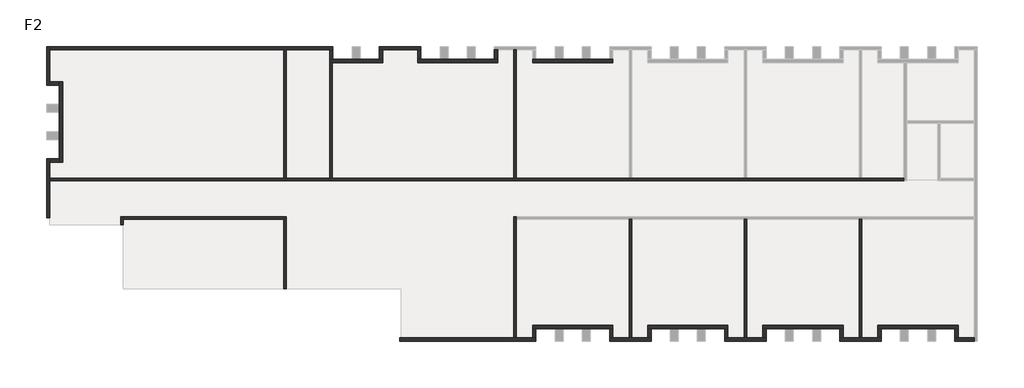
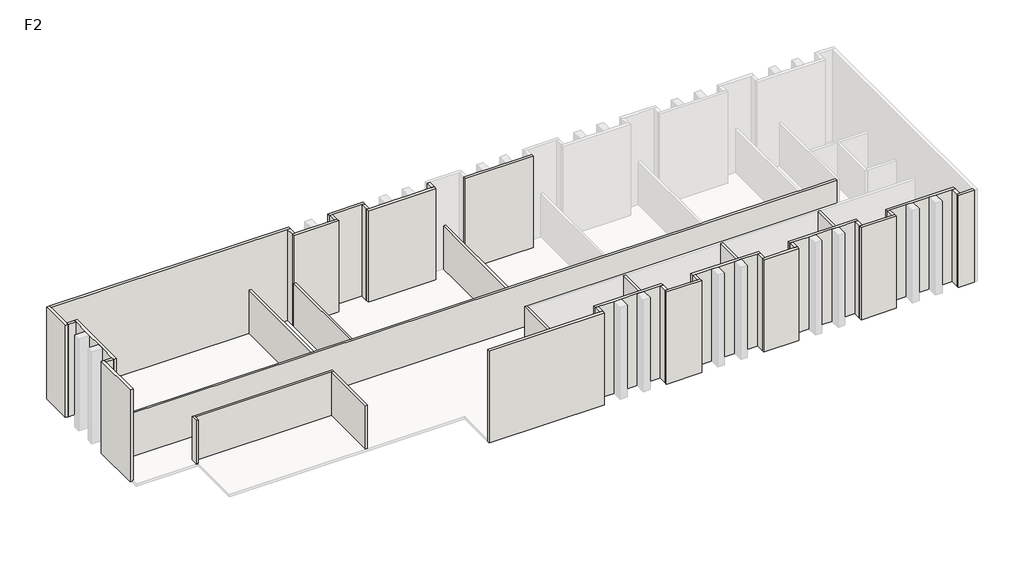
# One storey, part 1 of 2: 42 walls.
"""IFC4 building model written with IfcOpenShell, lengths in millimetres."""

import ifcopenshell
import ifcopenshell.guid

model = None  # the IFC model being written
_history = None  # IfcOwnerHistory: only IFC2X3 demands one
_inside = {}  # id of a spatial element -> (the spatial element, [elements in it])
_under = {}  # id of a project, library or spatial element -> (it, [spatial elements below it])
_declared = {}  # id of a project -> (the project, [libraries it declares])
_typed = {}  # id of a type object -> (the type object, [elements of that type])
_made_of = {}  # id of a material, layer set ... -> (it, [elements and type objects made of it])


def new_model(schema):
    """Start an empty IFC model of exactly this schema.

    Asked for "IFC4X3", IfcOpenShell would pick the latest addendum, in which some entities
    have other attributes; the version numbers below select the first issue.
    IFC2X3 requires an IfcOwnerHistory on every rooted entity: one is made here for all.
    """
    global model, _history
    if schema == "IFC4X3":
        model = ifcopenshell.file(schema_version=(4, 3, 0, 0))
    else:
        model = ifcopenshell.file(schema=schema)
    _inside.clear()
    _under.clear()
    _declared.clear()
    _typed.clear()
    _made_of.clear()
    _history = None
    if model.schema == "IFC2X3":
        org = make("IfcOrganization", Name="unknown")
        user = make(
            "IfcPersonAndOrganization",
            ThePerson=make("IfcPerson", FamilyName="unknown"),
            TheOrganization=org,
        )
        app = make(
            "IfcApplication",
            ApplicationDeveloper=org,
            Version="unknown",
            ApplicationFullName="unknown",
            ApplicationIdentifier="unknown",
        )
        _history = make(
            "IfcOwnerHistory",
            OwningUser=user,
            OwningApplication=app,
            ChangeAction="ADDED",
            CreationDate=0,
        )
    return model


def make(cls, **values):
    """One entity of the class cls with the attributes given. An attribute that is None is left unset."""
    return model.create_entity(
        cls, **{name: value for name, value in values.items() if value is not None}
    )


def rooted(cls, **values):
    """An entity with a GlobalId (a new one), such as an element, a storey or a relation."""
    return make(cls, GlobalId=ifcopenshell.guid.new(), OwnerHistory=_history, **values)


def si_unit(unit_type, name, prefix=None):
    """IfcSIUnit, for example si_unit("LENGTHUNIT", "METRE", prefix="MILLI")."""
    return make("IfcSIUnit", UnitType=unit_type, Prefix=prefix, Name=name)


def assignment(units):
    """IfcUnitAssignment: the units of a project."""
    return None if units is None else make("IfcUnitAssignment", Units=units)


def point(xyz):
    """IfcCartesianPoint."""
    return None if xyz is None else make("IfcCartesianPoint", Coordinates=xyz)


def direction(xyz):
    """IfcDirection."""
    return None if xyz is None else make("IfcDirection", DirectionRatios=xyz)


def frame(location, z_axis=None, x_axis=None):
    """IfcAxis2Placement3D, a coordinate frame: its origin and axes. An axis left out is left unset."""
    return make(
        "IfcAxis2Placement3D",
        Location=point(location),
        Axis=direction(z_axis),
        RefDirection=direction(x_axis),
    )


def origin():
    """The frame at (0, 0, 0) with its axes left unset."""
    return frame((0.0, 0.0, 0.0))


def place(relative_to, where):
    """IfcLocalPlacement: puts the frame where relative to a parent placement (None: the world)."""
    return make(
        "IfcLocalPlacement", PlacementRelTo=relative_to, RelativePlacement=where
    )


def context(
    kind, dimensions, precision=None, world=None, true_north=None, identifier=None
):
    """IfcGeometricRepresentationContext, for example the 3D "Model" context."""
    return make(
        "IfcGeometricRepresentationContext",
        ContextIdentifier=identifier,
        ContextType=kind,
        CoordinateSpaceDimension=dimensions,
        Precision=precision,
        WorldCoordinateSystem=world,
        TrueNorth=true_north,
    )


def project(units=None, contexts=None):
    """IfcProject with its units and contexts."""
    return rooted(
        "IfcProject",
        Name="project",
        RepresentationContexts=contexts,
        UnitsInContext=assignment(units),
    )


def spatial(cls, under=None, at=None, **own):
    """A site, building, storey or space (cls), placed at a placement, below another one or the project."""
    s = rooted(cls, ObjectPlacement=at, **own)
    if under is not None:
        _under.setdefault(under.id(), (under, []))[1].append(s)
    return s


def polyline(points):
    """IfcPolyline through the points."""
    return make("IfcPolyline", Points=[point(p) for p in points])


def outline(outer, holes=None, kind="AREA"):
    """IfcArbitraryClosedProfileDef: a profile drawn as a closed curve; with holes, ...WithVoids."""
    if holes is None:
        return make("IfcArbitraryClosedProfileDef", ProfileType=kind, OuterCurve=outer)
    return make(
        "IfcArbitraryProfileDefWithVoids",
        ProfileType=kind,
        OuterCurve=outer,
        InnerCurves=holes,
    )


def extrude(swept, where, along, depth):
    """IfcExtrudedAreaSolid: the profile swept, set in the frame where, extruded along a direction by depth."""
    return make(
        "IfcExtrudedAreaSolid",
        SweptArea=swept,
        Position=where,
        ExtrudedDirection=direction(along),
        Depth=depth,
    )


def faces_of(points, faces, orient=None, outer=None):
    """IfcFace entities. A face is a list of loops; a loop is a list of indices into points, from 0.

    orient and outer hold one flag for each loop. By default every Orientation is true, the
    first loop of a face is its IfcFaceOuterBound and the others are IfcFaceBound.
    """
    made = []
    for i, loops in enumerate(faces):
        bounds = []
        for j, loop in enumerate(loops):
            is_outer = j == 0 if outer is None else outer[i][j]
            bounds.append(
                make(
                    "IfcFaceOuterBound" if is_outer else "IfcFaceBound",
                    Bound=make("IfcPolyLoop", Polygon=[points[k] for k in loop]),
                    Orientation=True if orient is None else orient[i][j],
                )
            )
        made.append(make("IfcFace", Bounds=bounds))
    return made


def faceted_brep(points, faces, orient=None, outer=None, voids=None):
    """IfcFacetedBrep: a solid bounded by flat faces; with voids (closed shells), ...WithVoids."""
    shared = [point(p) for p in points]
    hull = make("IfcClosedShell", CfsFaces=faces_of(shared, faces, orient, outer))
    if voids is None:
        return make("IfcFacetedBrep", Outer=hull)
    return make(
        "IfcFacetedBrepWithVoids",
        Outer=hull,
        Voids=[
            make(cls, CfsFaces=faces_of(shared, fs, o, b)) for cls, fs, o, b in voids
        ],
    )


def shape(context_of_items, identifier, shape_type, items):
    """IfcShapeRepresentation: the items that make up one representation, for example the "Body"."""
    return make(
        "IfcShapeRepresentation",
        ContextOfItems=context_of_items,
        RepresentationIdentifier=identifier,
        RepresentationType=shape_type,
        Items=items,
    )


def made_of(thing, what):
    """Note that an element or type object is made of a material, layer set ...; save() writes the relation."""
    if what is not None:
        _made_of.setdefault(what.id(), (what, []))[1].append(thing)
    return thing


def element(
    cls,
    number,
    at=None,
    inside=None,
    cuts=None,
    type_object=None,
    material=None,
    context=None,
    identifier="Body",
    shape_type=None,
    held_by="IfcProductDefinitionShape",
    body=None,
    shapes=None,
    **own,
):
    """One element of the class cls, such as IfcWall. Its Tag is "e" and its number.

    at: its placement. inside: the storey or other place that contains it. cuts: it is an
    opening in that element (IfcRelVoidsElement). A single representation is given by context,
    identifier, shape_type and body (its items); several are given by shapes. held_by: the class
    of the entity that holds the representations. save() writes the other relations.
    """
    e = rooted(cls, Tag="e%d" % number, ObjectPlacement=at, **own)
    if body is not None:
        shapes = [shape(context, identifier, shape_type, body)]
    if shapes is not None:
        e.Representation = make(held_by, Representations=shapes)
    if inside is not None:
        _inside.setdefault(inside.id(), (inside, []))[1].append(e)
    if cuts is not None:
        rooted(
            "IfcRelVoidsElement", RelatingBuildingElement=cuts, RelatedOpeningElement=e
        )
    if type_object is not None:
        _typed.setdefault(type_object.id(), (type_object, []))[1].append(e)
    return made_of(e, material)


def aggregate(whole, parts):
    """IfcRelAggregates: a whole, such as a stair, and the parts it consists of."""
    return rooted("IfcRelAggregates", RelatingObject=whole, RelatedObjects=parts)


def save(model, path):
    """Write the relations noted so far, then the file.

    IfcRelAggregates (storeys below a building ...), IfcRelContainedInSpatialStructure (elements
    in a storey), IfcRelDefinesByType, IfcRelAssociatesMaterial and IfcRelDeclares: one each for
    every whole, place, type object, material and project.
    """
    for whole, parts in _under.values():
        aggregate(whole, parts)
    for where, things in _inside.values():
        rooted(
            "IfcRelContainedInSpatialStructure",
            RelatedElements=things,
            RelatingStructure=where,
        )
    for kind, things in _typed.values():
        rooted("IfcRelDefinesByType", RelatedObjects=things, RelatingType=kind)
    for what, things in _made_of.values():
        rooted("IfcRelAssociatesMaterial", RelatedObjects=things, RelatingMaterial=what)
    for by, libraries in _declared.values():
        rooted("IfcRelDeclares", RelatingContext=by, RelatedDefinitions=libraries)
    model.write(path)


model = new_model("IFC4")

# Units and contexts
model_context = context("Model", 3, world=origin())
ifc_project = project(units=[si_unit("LENGTHUNIT", "METRE", prefix="MILLI")], contexts=[model_context])

# Site, building, storey
site = spatial("IfcSite", under=ifc_project)
building = spatial("IfcBuilding", under=site)
storey = spatial("IfcBuildingStorey", under=building, Name="F2", Elevation=3600.0)

# Walls
placement = place(None, origin())
element("IfcWall", 1, ObjectType="F2-F5-15cm-外牆", at=placement, inside=storey, context=model_context, shape_type="Brep", body=[
    faceted_brep([(-27020.2182017, -13881.7926211, 3600.0), (-27020.2182017, -11561.7926211, 3600.0), (-27020.2182017, -11401.7926211, 3600.0), (-27020.2182017, -10391.7926211, 3600.0), (-27020.2182017, -10181.7926211, 3600.0), (-27020.2182017, -10181.7926211, 10800.0), (-27020.2182017, -10391.7926211, 10800.0), (-27020.2182017, -13881.7926211, 10800.0), (-27230.2182017, -13881.7926211, 3600.0), (-27230.2182017, -13881.7926211, 10800.0), (-27230.2182017, -10181.7926211, 10800.0), (-27230.2182017, -10181.7926211, 3600.0)], [[[0, 1, 2, 3, 4, 5, 6, 7]], [[8, 9, 10, 11]], [[4, 3, 2, 1, 0, 8, 11]], [[7, 6, 5, 10, 9]], [[0, 7, 9, 8]], [[5, 4, 11, 10]]]),
])
element("IfcWall", 2, ObjectType="F2-F5-15cm-外牆", at=placement, inside=storey, context=model_context, shape_type="Brep", body=[
    faceted_brep([(-27020.2182017, -3376.7926211, 3600.0), (-12385.2182017, -3376.7926211, 3600.0), (-12225.2182017, -3376.7926211, 3600.0), (-9525.2182017, -3376.7926211, 3600.0), (-9315.2182017, -3376.7926211, 3600.0), (-9315.2182017, -3376.7926211, 10800.0), (-9525.2182017, -3376.7926211, 10800.0), (-27020.2182017, -3376.7926211, 10800.0), (-27020.2182017, -3166.7926211, 3600.0), (-27020.2182017, -3166.7926211, 10800.0), (-9315.2182017, -3166.7926211, 10800.0), (-9315.2182017, -3166.7926211, 3600.0)], [[[0, 1, 2, 3, 4, 5, 6, 7]], [[8, 9, 10, 11]], [[4, 3, 2, 1, 0, 8, 11]], [[7, 6, 5, 10, 9]], [[5, 4, 11, 10]], [[0, 7, 9, 8]]]),
])
element("IfcWall", 3, ObjectType="F2-F5-15cm-外牆", at=placement, inside=storey, context=model_context, shape_type="Brep", body=[
    faceted_brep([(30789.7817983, -21386.7926211, 3600.0), (29794.7817983, -21386.7926211, 3600.0), (29584.7817983, -21386.7926211, 3600.0), (29584.7817983, -21386.7926211, 10800.0), (29794.7817983, -21386.7926211, 10800.0), (30789.7817983, -21386.7926211, 10800.0), (30789.7817983, -21596.7926211, 3600.0), (30789.7817983, -21596.7926211, 10800.0), (29584.7817983, -21596.7926211, 10800.0), (29584.7817983, -21596.7926211, 3600.0)], [[[0, 1, 2, 3, 4, 5]], [[6, 7, 8, 9]], [[2, 1, 0, 6, 9]], [[5, 4, 3, 8, 7]], [[0, 5, 7, 6]], [[3, 2, 9, 8]]]),
])
element("IfcWall", 4, ObjectType="F2-F5-15cm-外牆", at=placement, inside=storey, context=model_context, shape_type="Brep", body=[
    faceted_brep([(-26230.2182017, -10391.7926211, 3600.0), (-26230.2182017, -5371.7926211, 3600.0), (-26230.2182017, -5371.7926211, 10800.0), (-26230.2182017, -10391.7926211, 10800.0), (-26440.2182017, -10391.7926211, 3600.0), (-26440.2182017, -10391.7926211, 10800.0), (-26440.2182017, -10181.7926211, 10800.0), (-26440.2182017, -8981.7926211, 10800.0), (-26440.2182017, -8481.7926211, 10800.0), (-26440.2182017, -7281.7926211, 10800.0), (-26440.2182017, -6781.7926211, 10800.0), (-26440.2182017, -5581.7926211, 10800.0), (-26440.2182017, -5371.7926211, 10800.0), (-26440.2182017, -5371.7926211, 3600.0), (-26440.2182017, -5581.7926211, 3600.0), (-26440.2182017, -6781.7926211, 3600.0), (-26440.2182017, -7281.7926211, 3600.0), (-26440.2182017, -8481.7926211, 3600.0), (-26440.2182017, -8981.7926211, 3600.0), (-26440.2182017, -10181.7926211, 3600.0)], [[[0, 1, 2, 3]], [[4, 5, 6, 7, 8, 9, 10, 11, 12, 13, 14, 15, 16, 17, 18, 19]], [[1, 0, 4, 19, 18, 17, 16, 15, 14, 13]], [[3, 2, 12, 11, 10, 9, 8, 7, 6, 5]], [[2, 1, 13, 12]], [[0, 3, 5, 4]]]),
])
element("IfcWall", 5, ObjectType="F2-F5-15cm-外牆", at=placement, inside=storey, context=model_context, shape_type="Brep", body=[
    faceted_brep([(-27020.2182017, -5581.7926211, 3600.0), (-27020.2182017, -5371.7926211, 3600.0), (-27020.2182017, -3376.7926211, 3600.0), (-27020.2182017, -3166.7926211, 3600.0), (-27020.2182017, -3166.7926211, 10800.0), (-27020.2182017, -3376.7926211, 10800.0), (-27020.2182017, -5371.7926211, 10800.0), (-27020.2182017, -5581.7926211, 10800.0), (-27230.2182017, -5581.7926211, 3600.0), (-27230.2182017, -5581.7926211, 10800.0), (-27230.2182017, -3166.7926211, 10800.0), (-27230.2182017, -3166.7926211, 3600.0)], [[[0, 1, 2, 3, 4, 5, 6, 7]], [[8, 9, 10, 11]], [[3, 2, 1, 0, 8, 11]], [[7, 6, 5, 4, 10, 9]], [[4, 3, 11, 10]], [[0, 7, 9, 8]]]),
])
element("IfcWall", 6, ObjectType="F2-F5-15cm-外牆", at=placement, inside=storey, context=model_context, shape_type="SweptSolid", body=[
    extrude(outline(polyline([(-27020.2182017, -5371.7926211), (-26440.2182017, -5371.7926211), (-26440.2182017, -5581.7926211), (-27020.2182017, -5581.7926211), (-27020.2182017, -5371.7926211)])), frame((0.0, 0.0, 3600.0), z_axis=(0.0, 0.0, 1.0), x_axis=(1.0, 0.0, 0.0)), (0.0, 0.0, 1.0), 7200.0),
])
element("IfcWall", 7, ObjectType="F2-F5-15cm-外牆", at=placement, inside=storey, context=model_context, shape_type="SweptSolid", body=[
    extrude(outline(polyline([(-26440.2182017, -10391.7926211), (-27020.2182017, -10391.7926211), (-27020.2182017, -10181.7926211), (-26440.2182017, -10181.7926211), (-26440.2182017, -10391.7926211)])), frame((0.0, 0.0, 3600.0), z_axis=(0.0, 0.0, 1.0), x_axis=(1.0, 0.0, 0.0)), (0.0, 0.0, 1.0), 7200.0),
])
element("IfcWall", 8, ObjectType="F2-F5-15cm-外牆", at=placement, inside=storey, context=model_context, shape_type="Brep", body=[
    faceted_brep([(3174.7817983, -4166.7926211, 3600.0), (8194.7817983, -4166.7926211, 3600.0), (8194.7817983, -4166.7926211, 10800.0), (3174.7817983, -4166.7926211, 10800.0), (3174.7817983, -3956.7926211, 3600.0), (3174.7817983, -3956.7926211, 10800.0), (3384.7817983, -3956.7926211, 10800.0), (4584.7817983, -3956.7926211, 10800.0), (5084.7817983, -3956.7926211, 10800.0), (6284.7817983, -3956.7926211, 10800.0), (6784.7817983, -3956.7926211, 10800.0), (7984.7817983, -3956.7926211, 10800.0), (8194.7817983, -3956.7926211, 10800.0), (8194.7817983, -3956.7926211, 3600.0), (7984.7817983, -3956.7926211, 3600.0), (6784.7817983, -3956.7926211, 3600.0), (6284.7817983, -3956.7926211, 3600.0), (5084.7817983, -3956.7926211, 3600.0), (4584.7817983, -3956.7926211, 3600.0), (3384.7817983, -3956.7926211, 3600.0)], [[[0, 1, 2, 3]], [[4, 5, 6, 7, 8, 9, 10, 11, 12, 13, 14, 15, 16, 17, 18, 19]], [[1, 0, 4, 19, 18, 17, 16, 15, 14, 13]], [[3, 2, 12, 11, 10, 9, 8, 7, 6, 5]], [[0, 3, 5, 4]], [[2, 1, 13, 12]]]),
])
element("IfcWall", 9, ObjectType="F2-F5-15cm-外牆", at=placement, inside=storey, context=model_context, shape_type="Brep", body=[
    faceted_brep([(-4025.2182017, -4166.7926211, 3600.0), (994.7817983, -4166.7926211, 3600.0), (994.7817983, -4166.7926211, 10800.0), (-4025.2182017, -4166.7926211, 10800.0), (-4025.2182017, -3956.7926211, 3600.0), (-4025.2182017, -3956.7926211, 10800.0), (-3815.2182017, -3956.7926211, 10800.0), (-2615.2182017, -3956.7926211, 10800.0), (-2115.2182017, -3956.7926211, 10800.0), (-915.2182017, -3956.7926211, 10800.0), (-415.2182017, -3956.7926211, 10800.0), (784.7817983, -3956.7926211, 10800.0), (994.7817983, -3956.7926211, 10800.0), (994.7817983, -3956.7926211, 3600.0), (784.7817983, -3956.7926211, 3600.0), (-415.2182017, -3956.7926211, 3600.0), (-915.2182017, -3956.7926211, 3600.0), (-2115.2182017, -3956.7926211, 3600.0), (-2615.2182017, -3956.7926211, 3600.0), (-3815.2182017, -3956.7926211, 3600.0)], [[[0, 1, 2, 3]], [[4, 5, 6, 7, 8, 9, 10, 11, 12, 13, 14, 15, 16, 17, 18, 19]], [[1, 0, 4, 19, 18, 17, 16, 15, 14, 13]], [[3, 2, 12, 11, 10, 9, 8, 7, 6, 5]], [[2, 1, 13, 12]], [[0, 3, 5, 4]]]),
])
element("IfcWall", 10, ObjectType="F2-F5-15cm-外牆", at=placement, inside=storey, context=model_context, shape_type="SweptSolid", body=[
    extrude(outline(polyline([(-4025.2182017, -3956.7926211), (-4025.2182017, -3376.7926211), (-3815.2182017, -3376.7926211), (-3815.2182017, -3956.7926211), (-4025.2182017, -3956.7926211)])), frame((0.0, 0.0, 3600.0), z_axis=(0.0, 0.0, 1.0), x_axis=(1.0, 0.0, 0.0)), (0.0, 0.0, 1.0), 7200.0),
])
element("IfcWall", 11, ObjectType="F2-F5-15cm-外牆", at=placement, inside=storey, context=model_context, shape_type="SweptSolid", body=[
    extrude(outline(polyline([(994.7817983, -3376.7926211), (994.7817983, -3956.7926211), (784.7817983, -3956.7926211), (784.7817983, -3376.7926211), (994.7817983, -3376.7926211)])), frame((0.0, 0.0, 3600.0), z_axis=(0.0, 0.0, 1.0), x_axis=(1.0, 0.0, 0.0)), (0.0, 0.0, 1.0), 7200.0),
])
element("IfcWall", 12, ObjectType="F2-F5-15cm-外牆", at=placement, inside=storey, context=model_context, shape_type="Brep", body=[
    faceted_brep([(-9525.2182017, -4166.7926211, 10800.0), (-9525.2182017, -4166.7926211, 10650.0), (-9525.2182017, -4166.7926211, 7200.0), (-9525.2182017, -4166.7926211, 7050.0), (-9525.2182017, -4166.7926211, 3600.0), (-9365.2182017, -4166.7926211, 3600.0), (-6205.2182017, -4166.7926211, 3600.0), (-6205.2182017, -4166.7926211, 10800.0), (-9525.2182017, -3956.7926211, 3600.0), (-9525.2182017, -3956.7926211, 10800.0), (-9315.2182017, -3956.7926211, 10800.0), (-8115.2182017, -3956.7926211, 10800.0), (-7615.2182017, -3956.7926211, 10800.0), (-6415.2182017, -3956.7926211, 10800.0), (-6205.2182017, -3956.7926211, 10800.0), (-6205.2182017, -3956.7926211, 3600.0), (-6415.2182017, -3956.7926211, 3600.0), (-7615.2182017, -3956.7926211, 3600.0), (-8115.2182017, -3956.7926211, 3600.0), (-9315.2182017, -3956.7926211, 3600.0)], [[[0, 1, 2, 3, 4, 5, 6, 7]], [[8, 9, 10, 11, 12, 13, 14, 15, 16, 17, 18, 19]], [[6, 5, 4, 8, 19, 18, 17, 16, 15]], [[0, 7, 14, 13, 12, 11, 10, 9]], [[7, 6, 15, 14]], [[0, 9, 8, 4, 3, 2, 1]]]),
])
element("IfcWall", 13, ObjectType="F2-F5-15cm-外牆", at=placement, inside=storey, context=model_context, shape_type="SweptSolid", body=[
    extrude(outline(polyline([(-9525.2182017, -3956.7926211), (-9525.2182017, -3376.7926211), (-9315.2182017, -3376.7926211), (-9315.2182017, -3956.7926211), (-9525.2182017, -3956.7926211)])), frame((0.0, 0.0, 3600.0), z_axis=(0.0, 0.0, 1.0), x_axis=(1.0, 0.0, 0.0)), (0.0, 0.0, 1.0), 7200.0),
])
element("IfcWall", 14, ObjectType="F2-F5-15cm-外牆", at=placement, inside=storey, context=model_context, shape_type="SweptSolid", body=[
    extrude(outline(polyline([(-6205.2182017, -3376.7926211), (-6205.2182017, -3956.7926211), (-6415.2182017, -3956.7926211), (-6415.2182017, -3376.7926211), (-6205.2182017, -3376.7926211)])), frame((0.0, 0.0, 3600.0), z_axis=(0.0, 0.0, 1.0), x_axis=(1.0, 0.0, 0.0)), (0.0, 0.0, 1.0), 7200.0),
])
element("IfcWall", 15, ObjectType="F2-F5-15cm-外牆", at=placement, inside=storey, context=model_context, shape_type="Brep", body=[
    faceted_brep([(-6415.2182017, -3376.7926211, 3600.0), (-6205.2182017, -3376.7926211, 3600.0), (-4025.2182017, -3376.7926211, 3600.0), (-3815.2182017, -3376.7926211, 3600.0), (-3815.2182017, -3376.7926211, 10800.0), (-4025.2182017, -3376.7926211, 10800.0), (-6205.2182017, -3376.7926211, 10800.0), (-6415.2182017, -3376.7926211, 10800.0), (-6415.2182017, -3166.7926211, 3600.0), (-6415.2182017, -3166.7926211, 10800.0), (-3815.2182017, -3166.7926211, 10800.0), (-3815.2182017, -3166.7926211, 3600.0)], [[[0, 1, 2, 3, 4, 5, 6, 7]], [[8, 9, 10, 11]], [[3, 2, 1, 0, 8, 11]], [[7, 6, 5, 4, 10, 9]], [[4, 3, 11, 10]], [[0, 7, 9, 8]]]),
])
element("IfcWall", 16, ObjectType="F2-F5-15cm-外牆", at=placement, inside=storey, context=model_context, shape_type="Brep", body=[
    faceted_brep([(24774.7817983, -20806.7926211, 3600.0), (24984.7817983, -20806.7926211, 3600.0), (26184.7817983, -20806.7926211, 3600.0), (26684.7817983, -20806.7926211, 3600.0), (27884.7817983, -20806.7926211, 3600.0), (28384.7817983, -20806.7926211, 3600.0), (29584.7817983, -20806.7926211, 3600.0), (29794.7817983, -20806.7926211, 3600.0), (29794.7817983, -20806.7926211, 10800.0), (29584.7817983, -20806.7926211, 10800.0), (28384.7817983, -20806.7926211, 10800.0), (27884.7817983, -20806.7926211, 10800.0), (26684.7817983, -20806.7926211, 10800.0), (26184.7817983, -20806.7926211, 10800.0), (24984.7817983, -20806.7926211, 10800.0), (24774.7817983, -20806.7926211, 10800.0), (24774.7817983, -20596.7926211, 3600.0), (24774.7817983, -20596.7926211, 10800.0), (29794.7817983, -20596.7926211, 10800.0), (29794.7817983, -20596.7926211, 3600.0)], [[[0, 1, 2, 3, 4, 5, 6, 7, 8, 9, 10, 11, 12, 13, 14, 15]], [[16, 17, 18, 19]], [[7, 6, 5, 4, 3, 2, 1, 0, 16, 19]], [[15, 14, 13, 12, 11, 10, 9, 8, 18, 17]], [[0, 15, 17, 16]], [[8, 7, 19, 18]]]),
])
element("IfcWall", 17, ObjectType="F2-F5-15cm-外牆", at=placement, inside=storey, context=model_context, shape_type="SweptSolid", body=[
    extrude(outline(polyline([(24984.7817983, -20806.7926211), (24984.7817983, -21386.7926211), (24774.7817983, -21386.7926211), (24774.7817983, -20806.7926211), (24984.7817983, -20806.7926211)])), frame((0.0, 0.0, 3600.0), z_axis=(0.0, 0.0, 1.0), x_axis=(1.0, 0.0, 0.0)), (0.0, 0.0, 1.0), 7200.0),
])
element("IfcWall", 18, ObjectType="F2-F5-15cm-外牆", at=placement, inside=storey, context=model_context, shape_type="SweptSolid", body=[
    extrude(outline(polyline([(29584.7817983, -21386.7926211), (29584.7817983, -20806.7926211), (29794.7817983, -20806.7926211), (29794.7817983, -21386.7926211), (29584.7817983, -21386.7926211)])), frame((0.0, 0.0, 3600.0), z_axis=(0.0, 0.0, 1.0), x_axis=(1.0, 0.0, 0.0)), (0.0, 0.0, 1.0), 7200.0),
])
element("IfcWall", 19, ObjectType="F2-F5-15cm-外牆", at=placement, inside=storey, context=model_context, shape_type="Brep", body=[
    faceted_brep([(17574.7817983, -20806.7926211, 3600.0), (17784.7817983, -20806.7926211, 3600.0), (18984.7817983, -20806.7926211, 3600.0), (19484.7817983, -20806.7926211, 3600.0), (20684.7817983, -20806.7926211, 3600.0), (21184.7817983, -20806.7926211, 3600.0), (22384.7817983, -20806.7926211, 3600.0), (22594.7817983, -20806.7926211, 3600.0), (22594.7817983, -20806.7926211, 10800.0), (22384.7817983, -20806.7926211, 10800.0), (21184.7817983, -20806.7926211, 10800.0), (20684.7817983, -20806.7926211, 10800.0), (19484.7817983, -20806.7926211, 10800.0), (18984.7817983, -20806.7926211, 10800.0), (17784.7817983, -20806.7926211, 10800.0), (17574.7817983, -20806.7926211, 10800.0), (17574.7817983, -20596.7926211, 3600.0), (17574.7817983, -20596.7926211, 10800.0), (22594.7817983, -20596.7926211, 10800.0), (22594.7817983, -20596.7926211, 3600.0)], [[[0, 1, 2, 3, 4, 5, 6, 7, 8, 9, 10, 11, 12, 13, 14, 15]], [[16, 17, 18, 19]], [[7, 6, 5, 4, 3, 2, 1, 0, 16, 19]], [[15, 14, 13, 12, 11, 10, 9, 8, 18, 17]], [[0, 15, 17, 16]], [[8, 7, 19, 18]]]),
])
element("IfcWall", 20, ObjectType="F2-F5-15cm-外牆", at=placement, inside=storey, context=model_context, shape_type="SweptSolid", body=[
    extrude(outline(polyline([(17784.7817983, -20806.7926211), (17784.7817983, -21386.7926211), (17574.7817983, -21386.7926211), (17574.7817983, -20806.7926211), (17784.7817983, -20806.7926211)])), frame((0.0, 0.0, 3600.0), z_axis=(0.0, 0.0, 1.0), x_axis=(1.0, 0.0, 0.0)), (0.0, 0.0, 1.0), 7200.0),
])
element("IfcWall", 21, ObjectType="F2-F5-15cm-外牆", at=placement, inside=storey, context=model_context, shape_type="SweptSolid", body=[
    extrude(outline(polyline([(22384.7817983, -21386.7926211), (22384.7817983, -20806.7926211), (22594.7817983, -20806.7926211), (22594.7817983, -21386.7926211), (22384.7817983, -21386.7926211)])), frame((0.0, 0.0, 3600.0), z_axis=(0.0, 0.0, 1.0), x_axis=(1.0, 0.0, 0.0)), (0.0, 0.0, 1.0), 7200.0),
])
element("IfcWall", 22, ObjectType="F2-F5-15cm-外牆", at=placement, inside=storey, context=model_context, shape_type="Brep", body=[
    faceted_brep([(10374.7817983, -20806.7926211, 3600.0), (10584.7817983, -20806.7926211, 3600.0), (11784.7817983, -20806.7926211, 3600.0), (12284.7817983, -20806.7926211, 3600.0), (13484.7817983, -20806.7926211, 3600.0), (13984.7817983, -20806.7926211, 3600.0), (15184.7817983, -20806.7926211, 3600.0), (15394.7817983, -20806.7926211, 3600.0), (15394.7817983, -20806.7926211, 10800.0), (15184.7817983, -20806.7926211, 10800.0), (13984.7817983, -20806.7926211, 10800.0), (13484.7817983, -20806.7926211, 10800.0), (12284.7817983, -20806.7926211, 10800.0), (11784.7817983, -20806.7926211, 10800.0), (10584.7817983, -20806.7926211, 10800.0), (10374.7817983, -20806.7926211, 10800.0), (10374.7817983, -20596.7926211, 3600.0), (10374.7817983, -20596.7926211, 10800.0), (15394.7817983, -20596.7926211, 10800.0), (15394.7817983, -20596.7926211, 3600.0)], [[[0, 1, 2, 3, 4, 5, 6, 7, 8, 9, 10, 11, 12, 13, 14, 15]], [[16, 17, 18, 19]], [[7, 6, 5, 4, 3, 2, 1, 0, 16, 19]], [[15, 14, 13, 12, 11, 10, 9, 8, 18, 17]], [[0, 15, 17, 16]], [[8, 7, 19, 18]]]),
])
element("IfcWall", 23, ObjectType="F2-F5-15cm-外牆", at=placement, inside=storey, context=model_context, shape_type="SweptSolid", body=[
    extrude(outline(polyline([(10584.7817983, -20806.7926211), (10584.7817983, -21386.7926211), (10374.7817983, -21386.7926211), (10374.7817983, -20806.7926211), (10584.7817983, -20806.7926211)])), frame((0.0, 0.0, 3600.0), z_axis=(0.0, 0.0, 1.0), x_axis=(1.0, 0.0, 0.0)), (0.0, 0.0, 1.0), 7200.0),
])
element("IfcWall", 24, ObjectType="F2-F5-15cm-外牆", at=placement, inside=storey, context=model_context, shape_type="SweptSolid", body=[
    extrude(outline(polyline([(15184.7817983, -21386.7926211), (15184.7817983, -20806.7926211), (15394.7817983, -20806.7926211), (15394.7817983, -21386.7926211), (15184.7817983, -21386.7926211)])), frame((0.0, 0.0, 3600.0), z_axis=(0.0, 0.0, 1.0), x_axis=(1.0, 0.0, 0.0)), (0.0, 0.0, 1.0), 7200.0),
])
element("IfcWall", 25, ObjectType="F2-F5-15cm-外牆", at=placement, inside=storey, context=model_context, shape_type="Brep", body=[
    faceted_brep([(3174.7817983, -20806.7926211, 3600.0), (3384.7817983, -20806.7926211, 3600.0), (4584.7817983, -20806.7926211, 3600.0), (5084.7817983, -20806.7926211, 3600.0), (6284.7817983, -20806.7926211, 3600.0), (6784.7817983, -20806.7926211, 3600.0), (7984.7817983, -20806.7926211, 3600.0), (8194.7817983, -20806.7926211, 3600.0), (8194.7817983, -20806.7926211, 10800.0), (7984.7817983, -20806.7926211, 10800.0), (6784.7817983, -20806.7926211, 10800.0), (6284.7817983, -20806.7926211, 10800.0), (5084.7817983, -20806.7926211, 10800.0), (4584.7817983, -20806.7926211, 10800.0), (3384.7817983, -20806.7926211, 10800.0), (3174.7817983, -20806.7926211, 10800.0), (3174.7817983, -20596.7926211, 3600.0), (3174.7817983, -20596.7926211, 10800.0), (8194.7817983, -20596.7926211, 10800.0), (8194.7817983, -20596.7926211, 3600.0)], [[[0, 1, 2, 3, 4, 5, 6, 7, 8, 9, 10, 11, 12, 13, 14, 15]], [[16, 17, 18, 19]], [[7, 6, 5, 4, 3, 2, 1, 0, 16, 19]], [[15, 14, 13, 12, 11, 10, 9, 8, 18, 17]], [[0, 15, 17, 16]], [[8, 7, 19, 18]]]),
])
element("IfcWall", 26, ObjectType="F2-F5-15cm-外牆", at=placement, inside=storey, context=model_context, shape_type="SweptSolid", body=[
    extrude(outline(polyline([(3384.7817983, -20806.7926211), (3384.7817983, -21386.7926211), (3174.7817983, -21386.7926211), (3174.7817983, -20806.7926211), (3384.7817983, -20806.7926211)])), frame((0.0, 0.0, 3600.0), z_axis=(0.0, 0.0, 1.0), x_axis=(1.0, 0.0, 0.0)), (0.0, 0.0, 1.0), 7200.0),
])
element("IfcWall", 27, ObjectType="F2-F5-15cm-外牆", at=placement, inside=storey, context=model_context, shape_type="SweptSolid", body=[
    extrude(outline(polyline([(7984.7817983, -21386.7926211), (7984.7817983, -20806.7926211), (8194.7817983, -20806.7926211), (8194.7817983, -21386.7926211), (7984.7817983, -21386.7926211)])), frame((0.0, 0.0, 3600.0), z_axis=(0.0, 0.0, 1.0), x_axis=(1.0, 0.0, 0.0)), (0.0, 0.0, 1.0), 7200.0),
])
element("IfcWall", 28, ObjectType="F2-F5-15cm-外牆", at=placement, inside=storey, context=model_context, shape_type="Brep", body=[
    faceted_brep([(3384.7817983, -21386.7926211, 3600.0), (3174.7817983, -21386.7926211, 3600.0), (2164.7817983, -21386.7926211, 3600.0), (2004.7817983, -21386.7926211, 3600.0), (-5125.2182017, -21386.7926211, 3600.0), (-5125.2182017, -21386.7926211, 10800.0), (3174.7817983, -21386.7926211, 10800.0), (3384.7817983, -21386.7926211, 10800.0), (3384.7817983, -21596.7926211, 3600.0), (3384.7817983, -21596.7926211, 10800.0), (-5125.2182017, -21596.7926211, 10800.0), (-5125.2182017, -21596.7926211, 3600.0)], [[[0, 1, 2, 3, 4, 5, 6, 7]], [[8, 9, 10, 11]], [[4, 3, 2, 1, 0, 8, 11]], [[5, 4, 11, 10]], [[7, 6, 5, 10, 9]], [[0, 7, 9, 8]]]),
])
element("IfcWall", 29, ObjectType="F2-F5-15cm-外牆", at=placement, inside=storey, context=model_context, shape_type="Brep", body=[
    faceted_brep([(10584.7817983, -21386.7926211, 3600.0), (10374.7817983, -21386.7926211, 3600.0), (9364.7817983, -21386.7926211, 3600.0), (9204.7817983, -21386.7926211, 3600.0), (8194.7817983, -21386.7926211, 3600.0), (7984.7817983, -21386.7926211, 3600.0), (7984.7817983, -21386.7926211, 10800.0), (8194.7817983, -21386.7926211, 10800.0), (10374.7817983, -21386.7926211, 10800.0), (10584.7817983, -21386.7926211, 10800.0), (10584.7817983, -21596.7926211, 3600.0), (10584.7817983, -21596.7926211, 10800.0), (7984.7817983, -21596.7926211, 10800.0), (7984.7817983, -21596.7926211, 3600.0)], [[[0, 1, 2, 3, 4, 5, 6, 7, 8, 9]], [[10, 11, 12, 13]], [[5, 4, 3, 2, 1, 0, 10, 13]], [[9, 8, 7, 6, 12, 11]], [[0, 9, 11, 10]], [[6, 5, 13, 12]]]),
])
element("IfcWall", 30, ObjectType="F2-F5-15cm-外牆", at=placement, inside=storey, context=model_context, shape_type="Brep", body=[
    faceted_brep([(17784.7817983, -21386.7926211, 3600.0), (17574.7817983, -21386.7926211, 3600.0), (16564.7817983, -21386.7926211, 3600.0), (16404.7817983, -21386.7926211, 3600.0), (15394.7817983, -21386.7926211, 3600.0), (15184.7817983, -21386.7926211, 3600.0), (15184.7817983, -21386.7926211, 10800.0), (15394.7817983, -21386.7926211, 10800.0), (17574.7817983, -21386.7926211, 10800.0), (17784.7817983, -21386.7926211, 10800.0), (17784.7817983, -21596.7926211, 3600.0), (17784.7817983, -21596.7926211, 10800.0), (15184.7817983, -21596.7926211, 10800.0), (15184.7817983, -21596.7926211, 3600.0)], [[[0, 1, 2, 3, 4, 5, 6, 7, 8, 9]], [[10, 11, 12, 13]], [[5, 4, 3, 2, 1, 0, 10, 13]], [[9, 8, 7, 6, 12, 11]], [[0, 9, 11, 10]], [[6, 5, 13, 12]]]),
])
element("IfcWall", 31, ObjectType="F2-F5-15cm-外牆", at=placement, inside=storey, context=model_context, shape_type="Brep", body=[
    faceted_brep([(24984.7817983, -21386.7926211, 3600.0), (24774.7817983, -21386.7926211, 3600.0), (23764.7817983, -21386.7926211, 3600.0), (23604.7817983, -21386.7926211, 3600.0), (22594.7817983, -21386.7926211, 3600.0), (22384.7817983, -21386.7926211, 3600.0), (22384.7817983, -21386.7926211, 10800.0), (22594.7817983, -21386.7926211, 10800.0), (24774.7817983, -21386.7926211, 10800.0), (24984.7817983, -21386.7926211, 10800.0), (24984.7817983, -21596.7926211, 3600.0), (24984.7817983, -21596.7926211, 10800.0), (22384.7817983, -21596.7926211, 10800.0), (22384.7817983, -21596.7926211, 3600.0)], [[[0, 1, 2, 3, 4, 5, 6, 7, 8, 9]], [[10, 11, 12, 13]], [[5, 4, 3, 2, 1, 0, 10, 13]], [[9, 8, 7, 6, 12, 11]], [[0, 9, 11, 10]], [[6, 5, 13, 12]]]),
])
element("IfcWall", 32, ObjectType="F1-12cm-內牆", at=placement, inside=storey, context=model_context, shape_type="Brep", body=[
    faceted_brep([(26404.7817983, -11401.7926211, 3600.0), (23764.7817983, -11401.7926211, 3600.0), (23604.7817983, -11401.7926211, 3600.0), (16564.7817983, -11401.7926211, 3600.0), (16404.7817983, -11401.7926211, 3600.0), (9364.7817983, -11401.7926211, 3600.0), (9204.7817983, -11401.7926211, 3600.0), (2164.7817983, -11401.7926211, 3600.0), (2004.7817983, -11401.7926211, 3600.0), (-9365.2182017, -11401.7926211, 3600.0), (-9525.2182017, -11401.7926211, 3600.0), (-12225.2182017, -11401.7926211, 3600.0), (-12385.2182017, -11401.7926211, 3600.0), (-27020.2182017, -11401.7926211, 3600.0), (-27020.2182017, -11401.7926211, 7050.0), (-12385.2182017, -11401.7926211, 7050.0), (-12225.2182017, -11401.7926211, 7050.0), (-9525.2182017, -11401.7926211, 7050.0), (-9365.2182017, -11401.7926211, 7050.0), (2004.7817983, -11401.7926211, 7050.0), (2164.7817983, -11401.7926211, 7050.0), (9204.7817983, -11401.7926211, 7050.0), (9364.7817983, -11401.7926211, 7050.0), (16404.7817983, -11401.7926211, 7050.0), (16564.7817983, -11401.7926211, 7050.0), (23604.7817983, -11401.7926211, 7050.0), (23764.7817983, -11401.7926211, 7050.0), (26404.7817983, -11401.7926211, 7050.0), (26404.7817983, -11561.7926211, 3600.0), (26404.7817983, -11561.7926211, 7050.0), (-27020.2182017, -11561.7926211, 7050.0), (-27020.2182017, -11561.7926211, 3600.0)], [[[0, 1, 2, 3, 4, 5, 6, 7, 8, 9, 10, 11, 12, 13, 14, 15, 16, 17, 18, 19, 20, 21, 22, 23, 24, 25, 26, 27]], [[28, 29, 30, 31]], [[13, 12, 11, 10, 9, 8, 7, 6, 5, 4, 3, 2, 1, 0, 28, 31]], [[27, 26, 25, 24, 23, 22, 21, 20, 19, 18, 17, 16, 15, 14, 30, 29]], [[0, 27, 29, 28]], [[14, 13, 31, 30]]]),
])
element("IfcWall", 33, ObjectType="F1-12cm-內牆", at=placement, inside=storey, context=model_context, shape_type="SweptSolid", body=[
    extrude(outline(polyline([(-9365.2182017, -4166.7926211), (-9365.2182017, -11401.7926211), (-9525.2182017, -11401.7926211), (-9525.2182017, -4166.7926211), (-9365.2182017, -4166.7926211)])), frame((0.0, 0.0, 3600.0), z_axis=(0.0, 0.0, 1.0), x_axis=(1.0, 0.0, 0.0)), (0.0, 0.0, 1.0), 3450.0),
])
element("IfcWall", 34, ObjectType="F1-12cm-內牆", at=placement, inside=storey, context=model_context, shape_type="SweptSolid", body=[
    extrude(outline(polyline([(2004.7817983, -11401.7926211), (2004.7817983, -3376.7926211), (2164.7817983, -3376.7926211), (2164.7817983, -11401.7926211), (2004.7817983, -11401.7926211)])), frame((0.0, 0.0, 3600.0), z_axis=(0.0, 0.0, 1.0), x_axis=(1.0, 0.0, 0.0)), (0.0, 0.0, 1.0), 3450.0),
])
element("IfcWall", 35, ObjectType="F1-12cm-內牆", at=placement, inside=storey, context=model_context, shape_type="Brep", body=[
    faceted_brep([(2164.7817983, -21386.7926211, 3600.0), (2164.7817983, -13971.7926211, 3600.0), (2164.7817983, -13811.7926211, 3600.0), (2164.7817983, -13811.7926211, 7050.0), (2164.7817983, -13971.7926211, 7050.0), (2164.7817983, -21386.7926211, 7050.0), (2004.7817983, -21386.7926211, 3600.0), (2004.7817983, -21386.7926211, 7050.0), (2004.7817983, -13811.7926211, 7050.0), (2004.7817983, -13811.7926211, 3600.0)], [[[0, 1, 2, 3, 4, 5]], [[6, 7, 8, 9]], [[2, 1, 0, 6, 9]], [[5, 4, 3, 8, 7]], [[0, 5, 7, 6]], [[3, 2, 9, 8]]]),
])
element("IfcWall", 36, ObjectType="F1-12cm-內牆", at=placement, inside=storey, context=model_context, shape_type="SweptSolid", body=[
    extrude(outline(polyline([(9364.7817983, -13971.7926211), (9364.7817983, -21386.7926211), (9204.7817983, -21386.7926211), (9204.7817983, -13971.7926211), (9364.7817983, -13971.7926211)])), frame((0.0, 0.0, 3600.0), z_axis=(0.0, 0.0, 1.0), x_axis=(1.0, 0.0, 0.0)), (0.0, 0.0, 1.0), 3450.0),
])
element("IfcWall", 37, ObjectType="F1-12cm-內牆", at=placement, inside=storey, context=model_context, shape_type="SweptSolid", body=[
    extrude(outline(polyline([(16564.7817983, -13971.7926211), (16564.7817983, -21386.7926211), (16404.7817983, -21386.7926211), (16404.7817983, -13971.7926211), (16564.7817983, -13971.7926211)])), frame((0.0, 0.0, 3600.0), z_axis=(0.0, 0.0, 1.0), x_axis=(1.0, 0.0, 0.0)), (0.0, 0.0, 1.0), 3450.0),
])
element("IfcWall", 38, ObjectType="F1-12cm-內牆", at=placement, inside=storey, context=model_context, shape_type="SweptSolid", body=[
    extrude(outline(polyline([(23764.7817983, -13971.7926211), (23764.7817983, -21386.7926211), (23604.7817983, -21386.7926211), (23604.7817983, -13971.7926211), (23764.7817983, -13971.7926211)])), frame((0.0, 0.0, 3600.0), z_axis=(0.0, 0.0, 1.0), x_axis=(1.0, 0.0, 0.0)), (0.0, 0.0, 1.0), 3450.0),
])
element("IfcWall", 39, ObjectType="F1-12cm-內牆", at=placement, inside=storey, context=model_context, shape_type="Brep", body=[
    faceted_brep([(-22435.2182017, -14306.7926211, 3600.0), (-22435.2182017, -13961.7926211, 3600.0), (-22435.2182017, -13801.7926211, 3600.0), (-22435.2182017, -13801.7926211, 7050.0), (-22435.2182017, -13961.7926211, 7050.0), (-22435.2182017, -14306.7926211, 7050.0), (-22595.2182017, -14306.7926211, 3600.0), (-22595.2182017, -14306.7926211, 7050.0), (-22595.2182017, -13801.7926211, 7050.0), (-22595.2182017, -13801.7926211, 3600.0)], [[[0, 1, 2, 3, 4, 5]], [[6, 7, 8, 9]], [[2, 1, 0, 6, 9]], [[5, 4, 3, 8, 7]], [[0, 5, 7, 6]], [[3, 2, 9, 8]]]),
])
element("IfcWall", 40, ObjectType="F1-12cm-內牆", at=placement, inside=storey, context=model_context, shape_type="Brep", body=[
    faceted_brep([(-22435.2182017, -13961.7926211, 3600.0), (-12385.2182017, -13961.7926211, 3600.0), (-12225.2182017, -13961.7926211, 3600.0), (-12225.2182017, -13961.7926211, 7050.0), (-12385.2182017, -13961.7926211, 7050.0), (-22435.2182017, -13961.7926211, 7050.0), (-22435.2182017, -13801.7926211, 3600.0), (-22435.2182017, -13801.7926211, 7050.0), (-12225.2182017, -13801.7926211, 7050.0), (-12225.2182017, -13801.7926211, 3600.0)], [[[0, 1, 2, 3, 4, 5]], [[6, 7, 8, 9]], [[2, 1, 0, 6, 9]], [[5, 4, 3, 8, 7]], [[0, 5, 7, 6]], [[3, 2, 9, 8]]]),
])
element("IfcWall", 41, ObjectType="F1-12cm-內牆", at=placement, inside=storey, context=model_context, shape_type="SweptSolid", body=[
    extrude(outline(polyline([(-12385.2182017, -18301.7926211), (-12385.2182017, -13961.7926211), (-12225.2182017, -13961.7926211), (-12225.2182017, -18301.7926211), (-12385.2182017, -18301.7926211)])), frame((0.0, 0.0, 3600.0), z_axis=(0.0, 0.0, 1.0), x_axis=(1.0, 0.0, 0.0)), (0.0, 0.0, 1.0), 3450.0),
])
element("IfcWall", 42, ObjectType="F1-12cm-內牆", at=placement, inside=storey, context=model_context, shape_type="SweptSolid", body=[
    extrude(outline(polyline([(-12385.2182017, -11401.7926211), (-12385.2182017, -3376.7926211), (-12225.2182017, -3376.7926211), (-12225.2182017, -11401.7926211), (-12385.2182017, -11401.7926211)])), frame((0.0, 0.0, 3600.0), z_axis=(0.0, 0.0, 1.0), x_axis=(1.0, 0.0, 0.0)), (0.0, 0.0, 1.0), 3450.0),
])

save(model, "model.ifc")
